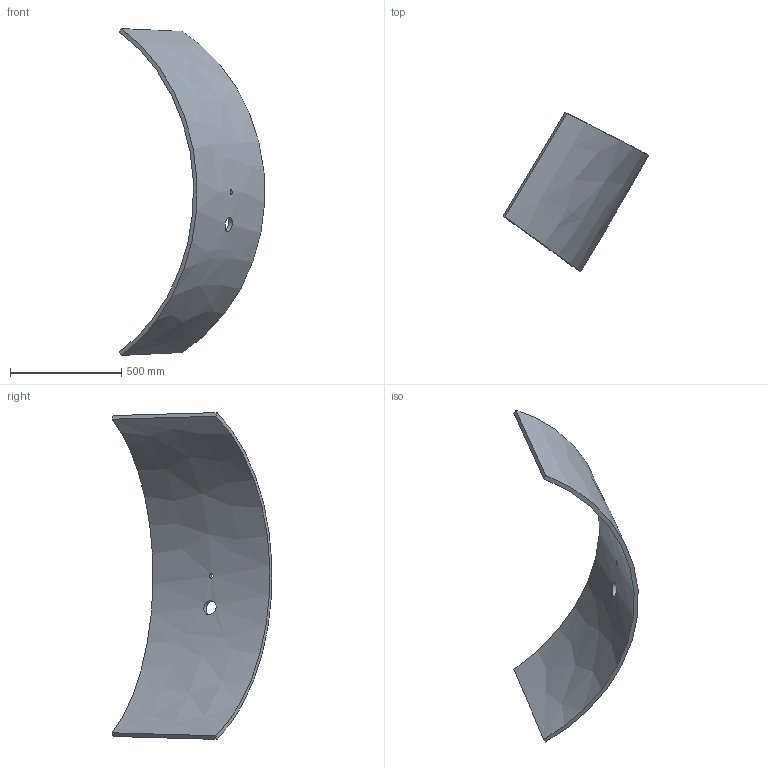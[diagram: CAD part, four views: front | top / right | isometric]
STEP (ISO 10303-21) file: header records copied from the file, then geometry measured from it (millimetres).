
FILE_DESCRIPTION (( 'STEP AP214' ), '1' );
FILE_NAME ('Section 7-B.STEP', '2025-01-09T19:43:28', ( '' ), ( '' ), 'SwSTEP 2.0', 'SolidWorks 2024', '' );
FILE_SCHEMA (( 'AUTOMOTIVE_DESIGN' ));
Length unit declared in the file: inch
Products named in the file (1): Section 7-B
Bounding box: 654.22 x 718.58 x 1470.47 mm (x, y, z)
Volume: 19329704.1 mm3; surface area: 2121112.9 mm2
Topology: 1 solids, 1 shells, 8 faces, 18 edges, 12 vertices
Faces by surface type: bspline 6, cylinder 2
Full cylindrical faces by diameter (mm): 19.431 x1, 63.5 x1
Entity records: 793 total; most frequent: CARTESIAN_POINT 633, ORIENTED_EDGE 32, EDGE_CURVE 16, B_SPLINE_CURVE_WITH_KNOTS 16, EDGE_LOOP 14, VERTEX_POINT 12, FACE_OUTER_BOUND 10, ADVANCED_FACE 8
